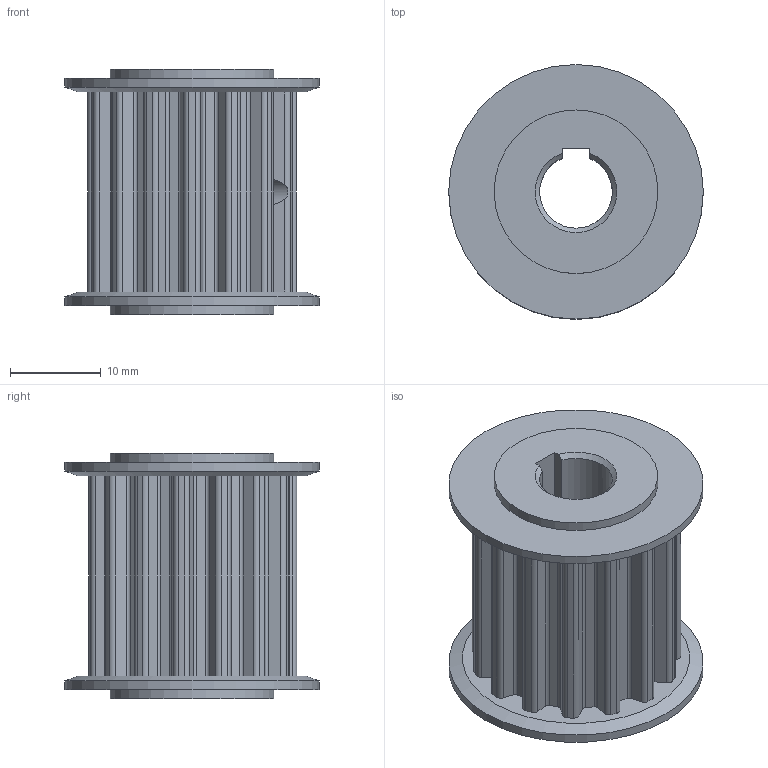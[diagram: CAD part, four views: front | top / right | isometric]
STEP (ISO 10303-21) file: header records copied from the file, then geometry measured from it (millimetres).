
FILE_DESCRIPTION(('STEP AP214'), '1');
FILE_NAME('BSY 15 T5-20 A N8 - 崹魤', '', ('UNSPECIFIED'), ('UNSPECIFIED'), 'ASCON STEP Converter 1.3', 'ASCON Math Kernel', '');
FILE_SCHEMA(('AUTOMOTIVE_DESIGN { 1 0 10303 214 3 1 1}'));
Length unit declared in the file: millimetre
Products named in the file (1): BSY-15-T5-20-A-N8
Bounding box: 28 x 28 x 27 mm (x, y, z)
Volume: 8396.2 mm3; surface area: 5001.9 mm2
Topology: 1 solids, 1 shells, 153 faces, 448 edges, 298 vertices
Faces by surface type: cylinder 86, plane 63, cone 4
Full cylindrical faces by diameter (mm): 3.242 x2, 18 x2, 28 x2
Entity records: 6834 total; most frequent: CARTESIAN_POINT 1424, DIRECTION 888, ORIENTED_EDGE 880, EDGE_CURVE 440, AXIS2_PLACEMENT_3D 324, VERTEX_POINT 298, LINE 240, VECTOR 240
